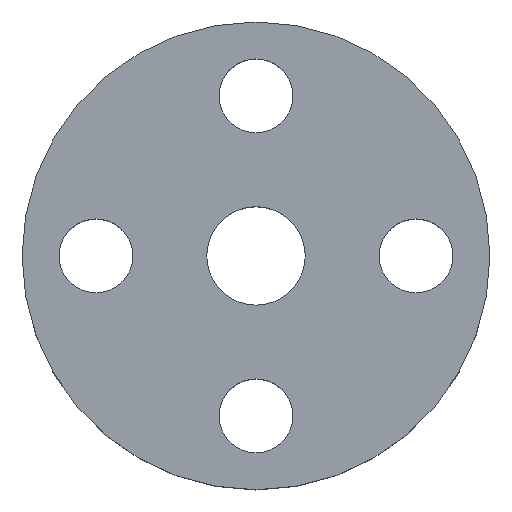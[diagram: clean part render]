
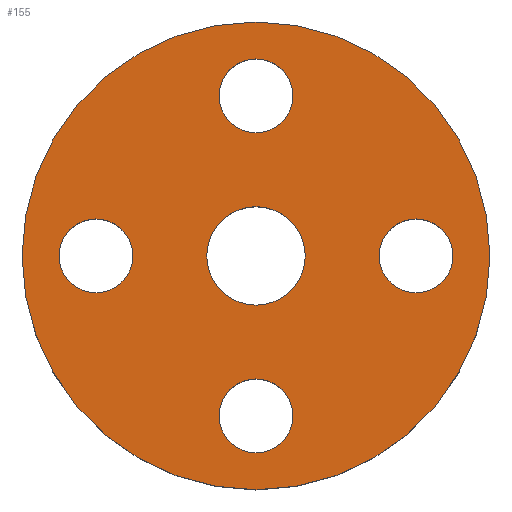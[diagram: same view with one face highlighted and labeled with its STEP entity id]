
A CAD part, top view. The second image highlights one B-rep face of the part: STEP entity #155.
In plain terms, the highlighted planar face has unit normal (0, 0, 1).
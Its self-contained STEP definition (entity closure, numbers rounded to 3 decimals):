
#15=FACE_BOUND('',#42,.T.);
#16=FACE_BOUND('',#43,.T.);
#17=FACE_BOUND('',#44,.T.);
#18=FACE_BOUND('',#45,.T.);
#19=FACE_BOUND('',#46,.T.);
#25=PLANE('',#189);
#33=FACE_OUTER_BOUND('',#41,.T.);
#41=EDGE_LOOP('',(#131));
#42=EDGE_LOOP('',(#132));
#43=EDGE_LOOP('',(#133));
#44=EDGE_LOOP('',(#134));
#45=EDGE_LOOP('',(#135));
#46=EDGE_LOOP('',(#136));
#65=CIRCLE('',#172,2.);
#67=CIRCLE('',#175,1.5);
#69=CIRCLE('',#178,1.5);
#71=CIRCLE('',#181,1.5);
#73=CIRCLE('',#184,1.5);
#75=CIRCLE('',#187,9.5);
#77=VERTEX_POINT('',#241);
#79=VERTEX_POINT('',#247);
#81=VERTEX_POINT('',#253);
#83=VERTEX_POINT('',#259);
#85=VERTEX_POINT('',#265);
#87=VERTEX_POINT('',#271);
#89=EDGE_CURVE('',#77,#77,#65,.T.);
#92=EDGE_CURVE('',#79,#79,#67,.T.);
#95=EDGE_CURVE('',#81,#81,#69,.T.);
#98=EDGE_CURVE('',#83,#83,#71,.T.);
#101=EDGE_CURVE('',#85,#85,#73,.T.);
#104=EDGE_CURVE('',#87,#87,#75,.T.);
#131=ORIENTED_EDGE('',*,*,#104,.T.);
#132=ORIENTED_EDGE('',*,*,#101,.T.);
#133=ORIENTED_EDGE('',*,*,#98,.T.);
#134=ORIENTED_EDGE('',*,*,#95,.T.);
#135=ORIENTED_EDGE('',*,*,#92,.T.);
#136=ORIENTED_EDGE('',*,*,#89,.T.);
#155=ADVANCED_FACE('',(#33,#15,#16,#17,#18,#19),#25,.T.);
#172=AXIS2_PLACEMENT_3D('',#242,#195,#196);
#175=AXIS2_PLACEMENT_3D('',#248,#202,#203);
#178=AXIS2_PLACEMENT_3D('',#254,#209,#210);
#181=AXIS2_PLACEMENT_3D('',#260,#216,#217);
#184=AXIS2_PLACEMENT_3D('',#266,#223,#224);
#187=AXIS2_PLACEMENT_3D('',#272,#230,#231);
#189=AXIS2_PLACEMENT_3D('',#276,#235,#236);
#195=DIRECTION('center_axis',(0.,0.,-1.));
#196=DIRECTION('ref_axis',(1.,0.,0.));
#202=DIRECTION('center_axis',(0.,0.,-1.));
#203=DIRECTION('ref_axis',(1.,0.,0.));
#209=DIRECTION('center_axis',(0.,0.,-1.));
#210=DIRECTION('ref_axis',(1.,0.,0.));
#216=DIRECTION('center_axis',(0.,0.,-1.));
#217=DIRECTION('ref_axis',(1.,0.,0.));
#223=DIRECTION('center_axis',(0.,0.,-1.));
#224=DIRECTION('ref_axis',(1.,0.,0.));
#230=DIRECTION('center_axis',(0.,0.,1.));
#231=DIRECTION('ref_axis',(1.,0.,0.));
#235=DIRECTION('center_axis',(0.,0.,1.));
#236=DIRECTION('ref_axis',(1.,0.,0.));
#241=CARTESIAN_POINT('',(-2.,0.,5.));
#242=CARTESIAN_POINT('Origin',(0.,0.,5.));
#247=CARTESIAN_POINT('',(-8.,0.,5.));
#248=CARTESIAN_POINT('Origin',(-6.5,0.,5.));
#253=CARTESIAN_POINT('',(-1.5,6.5,5.));
#254=CARTESIAN_POINT('Origin',(0.,6.5,5.));
#259=CARTESIAN_POINT('',(-1.5,-6.5,5.));
#260=CARTESIAN_POINT('Origin',(0.,-6.5,
5.));
#265=CARTESIAN_POINT('',(5.,0.,5.));
#266=CARTESIAN_POINT('Origin',(6.5,0.,5.));
#271=CARTESIAN_POINT('',(-9.5,0.,5.));
#272=CARTESIAN_POINT('Origin',(0.,0.,5.));
#276=CARTESIAN_POINT('Origin',(0.,0.,5.));
